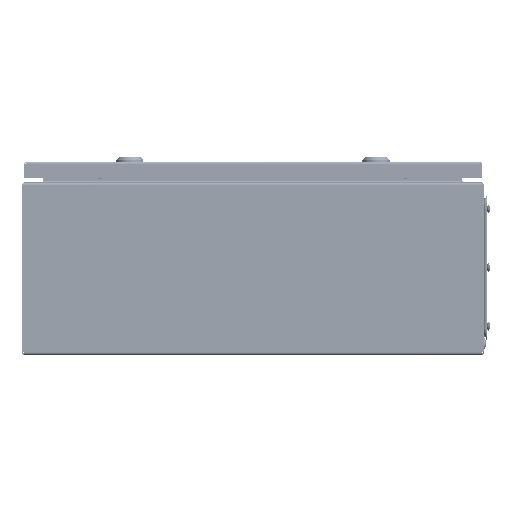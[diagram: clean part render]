
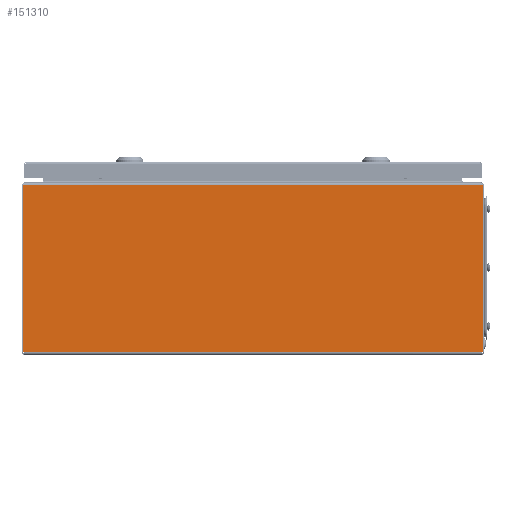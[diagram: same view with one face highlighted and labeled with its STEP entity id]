
A CAD part, left-side view. The second image highlights one B-rep face of the part: STEP entity #151310.
In plain terms, the highlighted planar face has unit normal (-1, 0, 0).
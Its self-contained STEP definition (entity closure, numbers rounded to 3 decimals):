
#5372 = EDGE_LOOP ( 'NONE', ( #153901, #41721, #81274, #156130, #131265, #149396, #14396, #152389 ) ) ;
#11597 = LINE ( 'NONE', #195935, #197660 ) ;
#11962 = VERTEX_POINT ( 'NONE', #55752 ) ;
#13708 = PLANE ( 'NONE',  #59486 ) ;
#14396 = ORIENTED_EDGE ( 'NONE', *, *, #193793, .T. ) ;
#15453 = LINE ( 'NONE', #125311, #110693 ) ;
#15976 = EDGE_CURVE ( 'NONE', #90233, #179139, #101220, .T. ) ;
#19213 = DIRECTION ( 'NONE',  ( 0., 1., 0. ) ) ;
#20346 = EDGE_CURVE ( 'NONE', #179139, #217100, #175045, .T. ) ;
#22170 = VECTOR ( 'NONE', #68882, 1000. ) ;
#22745 = CARTESIAN_POINT ( 'NONE',  ( -150., 248.529, 183.85 ) ) ;
#24877 = DIRECTION ( 'NONE',  ( 0., 0., 1. ) ) ;
#27458 = VECTOR ( 'NONE', #19213, 1000. ) ;
#29345 = DIRECTION ( 'NONE',  ( 0., 0., 1. ) ) ;
#30422 = EDGE_CURVE ( 'NONE', #199591, #142252, #15453, .T. ) ;
#33359 = VERTEX_POINT ( 'NONE', #170230 ) ;
#41721 = ORIENTED_EDGE ( 'NONE', *, *, #169220, .F. ) ;
#43220 = VECTOR ( 'NONE', #120292, 1000. ) ;
#46260 = CARTESIAN_POINT ( 'NONE',  ( -150., 248.423, 2.9 ) ) ;
#55752 = CARTESIAN_POINT ( 'NONE',  ( -150., 248.423, 183.85 ) ) ;
#59486 = AXIS2_PLACEMENT_3D ( 'NONE', #215685, #131875, #196965 ) ;
#68882 = DIRECTION ( 'NONE',  ( 0., 1., 0. ) ) ;
#69997 = LINE ( 'NONE', #84328, #22170 ) ;
#81274 = ORIENTED_EDGE ( 'NONE', *, *, #20346, .F. ) ;
#84328 = CARTESIAN_POINT ( 'NONE',  ( -150., -2750., 2.9 ) ) ;
#84731 = EDGE_CURVE ( 'NONE', #199591, #90233, #69997, .T. ) ;
#90233 = VERTEX_POINT ( 'NONE', #46260 ) ;
#97821 = CARTESIAN_POINT ( 'NONE',  ( -150., -248.529, 2.9 ) ) ;
#101220 = LINE ( 'NONE', #149700, #112932 ) ;
#101422 = CARTESIAN_POINT ( 'NONE',  ( -150., -248.423, 183.85 ) ) ;
#107245 = VERTEX_POINT ( 'NONE', #101422 ) ;
#110693 = VECTOR ( 'NONE', #196533, 1000. ) ;
#112932 = VECTOR ( 'NONE', #198264, 1000. ) ;
#115533 = LINE ( 'NONE', #97821, #126730 ) ;
#117726 = CARTESIAN_POINT ( 'NONE',  ( -150., -248.423, 2.9 ) ) ;
#119825 = CARTESIAN_POINT ( 'NONE',  ( -150., -248.529, 183.85 ) ) ;
#120292 = DIRECTION ( 'NONE',  ( 0., 1., 0. ) ) ;
#125311 = CARTESIAN_POINT ( 'NONE',  ( -150., -248.423, 2.9 ) ) ;
#125444 = CARTESIAN_POINT ( 'NONE',  ( -150., 248.529, 2.9 ) ) ;
#126730 = VECTOR ( 'NONE', #29345, 1000. ) ;
#128396 = EDGE_CURVE ( 'NONE', #33359, #107245, #152810, .T. ) ;
#129752 = FACE_OUTER_BOUND ( 'NONE', #5372, .T. ) ;
#131265 = ORIENTED_EDGE ( 'NONE', *, *, #84731, .F. ) ;
#131875 = DIRECTION ( 'NONE',  ( 1., 0., 0. ) ) ;
#131893 = DIRECTION ( 'NONE',  ( 0., -1., 0. ) ) ;
#142252 = VERTEX_POINT ( 'NONE', #215220 ) ;
#149396 = ORIENTED_EDGE ( 'NONE', *, *, #30422, .T. ) ;
#149700 = CARTESIAN_POINT ( 'NONE',  ( -150., 248.423, 2.9 ) ) ;
#149774 = VECTOR ( 'NONE', #24877, 1000. ) ;
#151310 = ADVANCED_FACE ( 'NONE', ( #129752 ), #13708, .F. ) ;
#152389 = ORIENTED_EDGE ( 'NONE', *, *, #128396, .T. ) ;
#152810 = LINE ( 'NONE', #119825, #27458 ) ;
#153901 = ORIENTED_EDGE ( 'NONE', *, *, #156813, .T. ) ;
#156130 = ORIENTED_EDGE ( 'NONE', *, *, #15976, .F. ) ;
#156813 = EDGE_CURVE ( 'NONE', #107245, #11962, #157591, .T. ) ;
#157591 = LINE ( 'NONE', #190797, #43220 ) ;
#169220 = EDGE_CURVE ( 'NONE', #217100, #11962, #11597, .T. ) ;
#170230 = CARTESIAN_POINT ( 'NONE',  ( -150., -248.529, 183.85 ) ) ;
#175045 = LINE ( 'NONE', #125444, #149774 ) ;
#179139 = VERTEX_POINT ( 'NONE', #187423 ) ;
#187423 = CARTESIAN_POINT ( 'NONE',  ( -150., 248.529, 2.9 ) ) ;
#190797 = CARTESIAN_POINT ( 'NONE',  ( -150., -2750., 183.85 ) ) ;
#193793 = EDGE_CURVE ( 'NONE', #142252, #33359, #115533, .T. ) ;
#195935 = CARTESIAN_POINT ( 'NONE',  ( -150., 248.529, 183.85 ) ) ;
#196533 = DIRECTION ( 'NONE',  ( 0., -1., 0. ) ) ;
#196965 = DIRECTION ( 'NONE',  ( 0., 0., -1. ) ) ;
#197660 = VECTOR ( 'NONE', #131893, 1000. ) ;
#198264 = DIRECTION ( 'NONE',  ( 0., 1., 0. ) ) ;
#199591 = VERTEX_POINT ( 'NONE', #117726 ) ;
#215220 = CARTESIAN_POINT ( 'NONE',  ( -150., -248.529, 2.9 ) ) ;
#215685 = CARTESIAN_POINT ( 'NONE',  ( -150., -2750., 183.85 ) ) ;
#217100 = VERTEX_POINT ( 'NONE', #22745 ) ;
